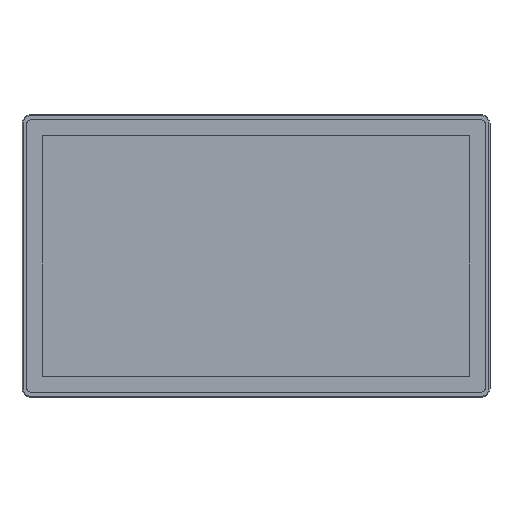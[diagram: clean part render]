
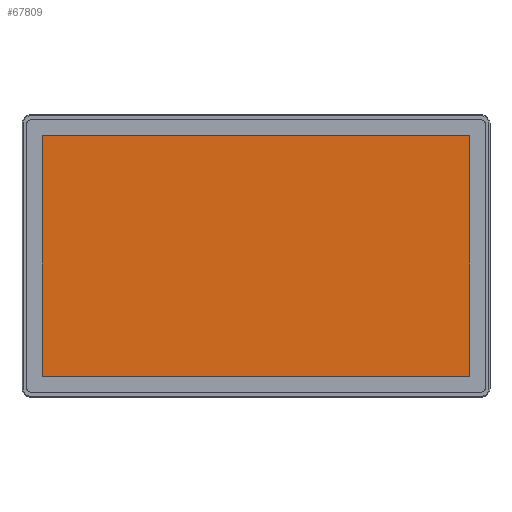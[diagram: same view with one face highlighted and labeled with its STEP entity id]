
A CAD part, top view. The second image highlights one B-rep face of the part: STEP entity #67809.
In plain terms, the highlighted planar face has unit normal (0, 0, 1).
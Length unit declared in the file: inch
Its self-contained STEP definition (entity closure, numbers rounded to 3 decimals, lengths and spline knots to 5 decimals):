
#780 = EDGE_CURVE ( 'NONE', #260822, #233081, #205776, .T. ) ;
#3368 = EDGE_CURVE ( 'NONE', #233081, #230991, #10271, .T. ) ;
#10271 = LINE ( 'NONE', #137595, #96050 ) ;
#13797 = CARTESIAN_POINT ( 'NONE',  ( -0.26099, 0.04948, 0.19681 ) ) ;
#15683 = DIRECTION ( 'NONE',  ( 0., 1., 0. ) ) ;
#22994 = EDGE_CURVE ( 'NONE', #230991, #217960, #230562, .T. ) ;
#29282 = ORIENTED_EDGE ( 'NONE', *, *, #3368, .T. ) ;
#32984 = PLANE ( 'NONE',  #245396 ) ;
#45320 = EDGE_LOOP ( 'NONE', ( #121234, #189153, #103677, #29282 ) ) ;
#51360 = DIRECTION ( 'NONE',  ( -1., 0., 0. ) ) ;
#53876 = LINE ( 'NONE', #119711, #109424 ) ;
#67809 = ADVANCED_FACE ( 'NONE', ( #97426 ), #32984, .T. ) ;
#75852 = DIRECTION ( 'NONE',  ( 1., 0., 0. ) ) ;
#77136 = EDGE_CURVE ( 'NONE', #217960, #260822, #53876, .T. ) ;
#93009 = CARTESIAN_POINT ( 'NONE',  ( 11.50279, 6.6668, 0.19681 ) ) ;
#93575 = VECTOR ( 'NONE', #15683, 39.37008 ) ;
#96050 = VECTOR ( 'NONE', #51360, 39.37008 ) ;
#97426 = FACE_OUTER_BOUND ( 'NONE', #45320, .T. ) ;
#103677 = ORIENTED_EDGE ( 'NONE', *, *, #780, .T. ) ;
#109424 = VECTOR ( 'NONE', #75852, 39.37008 ) ;
#119711 = CARTESIAN_POINT ( 'NONE',  ( -12.02477, -6.56745, 0.19681 ) ) ;
#121234 = ORIENTED_EDGE ( 'NONE', *, *, #22994, .T. ) ;
#128034 = CARTESIAN_POINT ( 'NONE',  ( -12.02477, 6.6668, 0.19681 ) ) ;
#137595 = CARTESIAN_POINT ( 'NONE',  ( -12.02477, 6.6668, 0.19681 ) ) ;
#160193 = DIRECTION ( 'NONE',  ( 1., 0., 0. ) ) ;
#167562 = DIRECTION ( 'NONE',  ( 0., -1., 0. ) ) ;
#188233 = CARTESIAN_POINT ( 'NONE',  ( -12.02477, 6.6668, 0.19681 ) ) ;
#189153 = ORIENTED_EDGE ( 'NONE', *, *, #77136, .T. ) ;
#194365 = VECTOR ( 'NONE', #167562, 39.37008 ) ;
#205776 = LINE ( 'NONE', #266097, #93575 ) ;
#216073 = CARTESIAN_POINT ( 'NONE',  ( -12.02477, -6.56745, 0.19681 ) ) ;
#217960 = VERTEX_POINT ( 'NONE', #216073 ) ;
#230562 = LINE ( 'NONE', #128034, #194365 ) ;
#230991 = VERTEX_POINT ( 'NONE', #188233 ) ;
#233081 = VERTEX_POINT ( 'NONE', #93009 ) ;
#242663 = CARTESIAN_POINT ( 'NONE',  ( 11.50279, -6.56745, 0.19681 ) ) ;
#245396 = AXIS2_PLACEMENT_3D ( 'NONE', #13797, #260177, #160193 ) ;
#260177 = DIRECTION ( 'NONE',  ( 0., 0., 1. ) ) ;
#260822 = VERTEX_POINT ( 'NONE', #242663 ) ;
#266097 = CARTESIAN_POINT ( 'NONE',  ( 11.50279, 6.6668, 0.19681 ) ) ;
